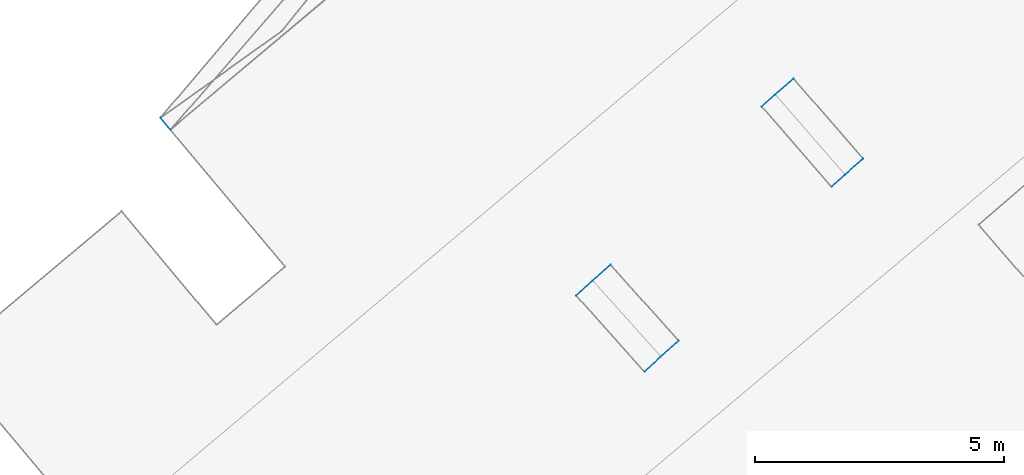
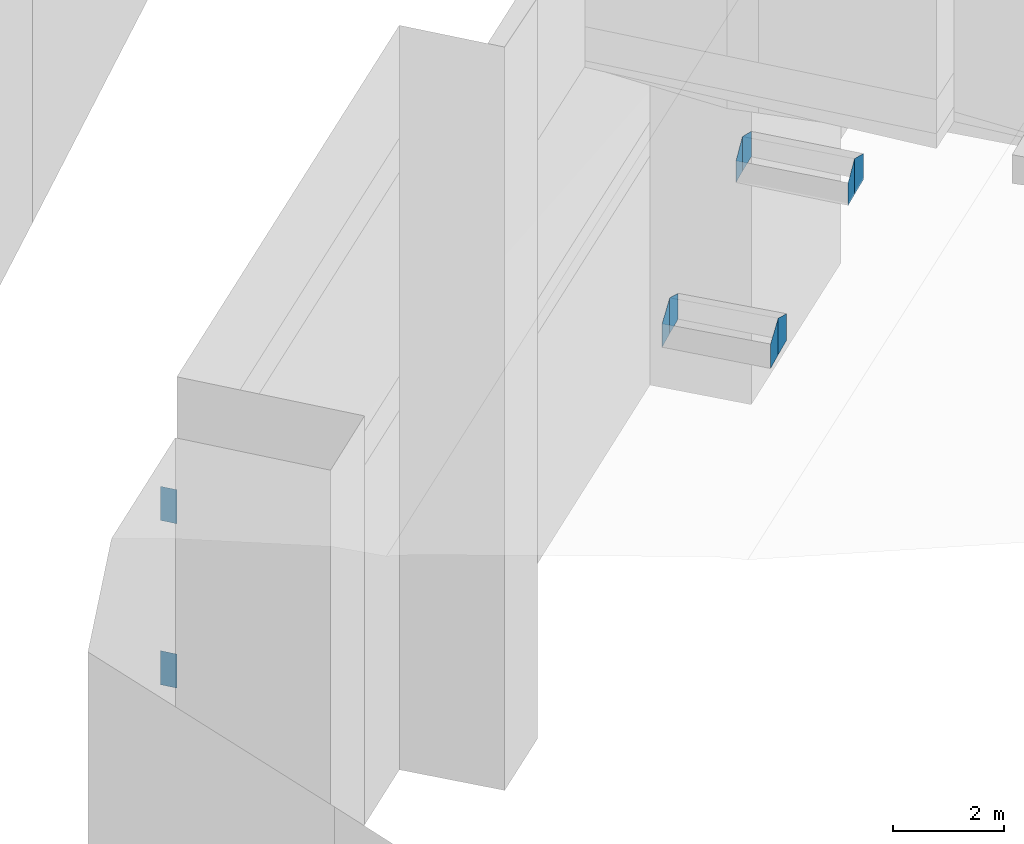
# Not in any storey, part 101 of 136: 12 walls.
"""IFC4 building model written with IfcOpenShell, lengths in metres."""

from ifc_helpers import new_model, entity, si_unit, converted_unit, frame, origin, place, context, subcontext, project, spatial, face_set, surface_model, element, save


model = new_model("IFC4")

# Units and contexts
model_context = context("Model", 3, precision=1e-05, world=origin())
body_context = subcontext(model_context, "Body", "Model", "MODEL_VIEW")
ifc_project = project(units=[converted_unit("PLANEANGLEUNIT", "DEGREE", entity("IfcRatioMeasure", 0.0174532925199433), si_unit("PLANEANGLEUNIT", "RADIAN"), dimensions=[0, 0, 0, 0, 0, 0, 0]), si_unit("AREAUNIT", "SQUARE_METRE"), si_unit("LENGTHUNIT", "METRE")], contexts=[model_context])

# Site, building
site_placement = place(None, origin())
site = spatial("IfcSite", under=ifc_project, at=site_placement, Name="_site")
building_placement = place(site_placement, origin())
building = spatial("IfcBuilding", under=site, at=building_placement, Name="_building")

# Walls
wall_1_placement = place(building_placement, origin())
element("IfcWall", 1, at=wall_1_placement, inside=building, Name="Wall", PredefinedType="NOTDEFINED", context=body_context, shape_type="SurfaceModel", body=[
    surface_model("IfcFaceBasedSurfaceModel", [(46.71, 62.67, 55.0), (46.44, 62.43, 54.71), (46.44, 62.43, 54.212), (46.71, 62.67, 54.212)], [face_set([[[0, 1, 2, 3]]])]),
])
wall_2_placement = place(building_placement, origin())
element("IfcWall", 2, at=wall_2_placement, inside=building, Name="Wall", PredefinedType="NOTDEFINED", context=body_context, shape_type="SurfaceModel", body=[
    surface_model("IfcFaceBasedSurfaceModel", [(41.31, 60.24, 54.74), (41.64, 60.54, 55.01), (41.64, 60.54, 54.222), (41.31, 60.24, 54.222)], [face_set([[[0, 1, 2, 3]]])]),
])
wall_3_placement = place(building_placement, origin())
element("IfcWall", 3, at=wall_3_placement, inside=building, Name="Wall", PredefinedType="NOTDEFINED", context=body_context, shape_type="SurfaceModel", body=[
    surface_model("IfcFaceBasedSurfaceModel", [(43.01, 59.01, 55.01), (42.68, 58.71, 54.74), (42.68, 58.71, 54.203), (43.01, 59.01, 54.204)], [face_set([[[0, 1, 2, 3]]])]),
])
wall_4_placement = place(building_placement, origin())
element("IfcWall", 4, at=wall_4_placement, inside=building, Name="Wall", PredefinedType="NOTDEFINED", context=body_context, shape_type="SurfaceModel", body=[
    surface_model("IfcFaceBasedSurfaceModel", [(43.37, 59.33, 54.79), (43.01, 59.01, 55.01), (43.01, 59.01, 54.204), (43.37, 59.33, 54.204)], [face_set([[[0, 1, 2, 3]]])]),
])
wall_5_placement = place(building_placement, origin())
element("IfcWall", 5, at=wall_5_placement, inside=building, Name="Wall", PredefinedType="NOTDEFINED", context=body_context, shape_type="SurfaceModel", body=[
    surface_model("IfcFaceBasedSurfaceModel", [(41.64, 60.54, 55.01), (42.0, 60.86, 54.79), (42.0, 60.86, 54.223), (41.64, 60.54, 54.222)], [face_set([[[0, 1, 2, 3]]])]),
])
wall_6_placement = place(building_placement, origin())
element("IfcWall", 6, at=wall_6_placement, inside=building, Name="Wall", PredefinedType="NOTDEFINED", context=body_context, shape_type="SurfaceModel", body=[
    surface_model("IfcFaceBasedSurfaceModel", [(47.08, 62.99, 54.79), (46.71, 62.67, 55.0), (46.71, 62.67, 54.212), (47.08, 62.99, 54.213)], [face_set([[[0, 1, 2, 3]]])]),
])
wall_7_placement = place(building_placement, origin())
element("IfcWall", 7, at=wall_7_placement, inside=building, Name="Wall", PredefinedType="NOTDEFINED", context=body_context, shape_type="SurfaceModel", body=[
    surface_model("IfcFaceBasedSurfaceModel", [(45.31, 64.28, 55.0), (45.68, 64.601, 54.79), (45.68, 64.601, 54.232), (45.31, 64.28, 54.232)], [face_set([[[0, 1, 2, 3]]])]),
])
wall_8_placement = place(building_placement, origin())
element("IfcWall", 8, at=wall_8_placement, inside=building, Name="Wall", PredefinedType="NOTDEFINED", context=body_context, shape_type="SurfaceModel", body=[
    surface_model("IfcFaceBasedSurfaceModel", [(45.04, 64.04, 54.71), (45.31, 64.28, 55.0), (45.31, 64.28, 54.232), (45.04, 64.04, 54.232)], [face_set([[[0, 1, 2, 3]]])]),
])
for number, where, name in (
    (9, (0.0, 0.0, 0.0), "Wall"),
    (10, (0.0, 0.0, 0.0), "Wall"),
):
    element("IfcWall", number, at=place(building_placement, frame(where)), inside=building, Name=name, PredefinedType="NOTDEFINED", context=body_context, shape_type="SurfaceModel", body=[
        surface_model("IfcFaceBasedSurfaceModel", [(33.15, 63.57, 51.18), (32.95, 63.811, 51.18), (32.95, 63.811, 51.93), (33.15, 63.57, 51.93)], [face_set([[[0, 1, 2, 3]]])]),
    ])
for number, where, name in (
    (11, (0.0, 0.0, 0.0), "Wall"),
    (12, (0.0, 0.0, 0.0), "Wall"),
):
    element("IfcWall", number, at=place(building_placement, frame(where)), inside=building, Name=name, PredefinedType="NOTDEFINED", context=body_context, shape_type="SurfaceModel", body=[
        surface_model("IfcFaceBasedSurfaceModel", [(33.15, 63.57, 47.57), (32.95, 63.811, 47.57), (32.95, 63.811, 48.32), (33.15, 63.57, 48.32)], [face_set([[[0, 1, 2, 3]]])]),
    ])

save(model, "model.ifc")
